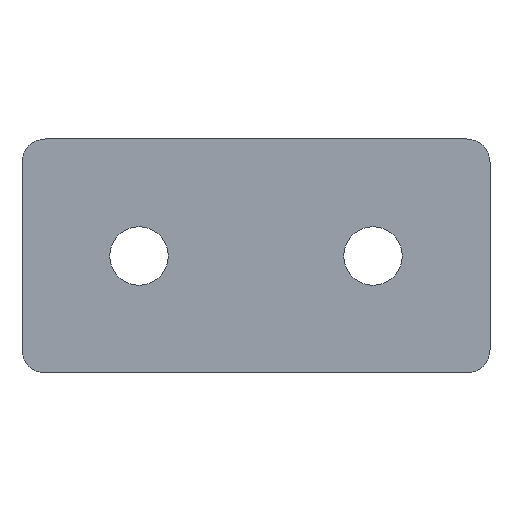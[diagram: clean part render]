
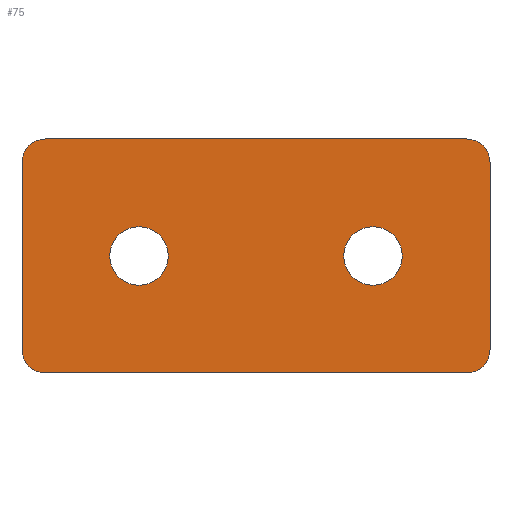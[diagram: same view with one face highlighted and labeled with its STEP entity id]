
A CAD part, front view. The second image highlights one B-rep face of the part: STEP entity #75.
In plain terms, the highlighted planar face has unit normal (0, -1, 0).
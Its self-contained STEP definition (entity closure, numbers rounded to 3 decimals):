
#75 = ADVANCED_FACE( '', ( #88, #89, #90 ), #91, .F. );
#88 = FACE_BOUND( '', #118, .T. );
#89 = FACE_BOUND( '', #119, .T. );
#90 = FACE_OUTER_BOUND( '', #120, .T. );
#91 = PLANE( '', #121 );
#118 = EDGE_LOOP( '', ( #148 ) );
#119 = EDGE_LOOP( '', ( #149 ) );
#120 = EDGE_LOOP( '', ( #150, #151, #152, #153, #154, #155, #156, #157 ) );
#121 = AXIS2_PLACEMENT_3D( '', #158, #159, #160 );
#148 = ORIENTED_EDGE( '', *, *, #240, .F. );
#149 = ORIENTED_EDGE( '', *, *, #241, .F. );
#150 = ORIENTED_EDGE( '', *, *, #242, .F. );
#151 = ORIENTED_EDGE( '', *, *, #243, .F. );
#152 = ORIENTED_EDGE( '', *, *, #244, .F. );
#153 = ORIENTED_EDGE( '', *, *, #245, .F. );
#154 = ORIENTED_EDGE( '', *, *, #246, .F. );
#155 = ORIENTED_EDGE( '', *, *, #247, .F. );
#156 = ORIENTED_EDGE( '', *, *, #248, .F. );
#157 = ORIENTED_EDGE( '', *, *, #249, .F. );
#158 = CARTESIAN_POINT( '', ( -18., 0., -8. ) );
#159 = DIRECTION( '', ( 0., 1., 0. ) );
#160 = DIRECTION( '', ( 0., 0., 1. ) );
#240 = EDGE_CURVE( '', #268, #268, #269, .T. );
#241 = EDGE_CURVE( '', #270, #270, #271, .T. );
#242 = EDGE_CURVE( '', #272, #273, #274, .T. );
#243 = EDGE_CURVE( '', #275, #272, #276, .T. );
#244 = EDGE_CURVE( '', #277, #275, #278, .T. );
#245 = EDGE_CURVE( '', #279, #277, #280, .T. );
#246 = EDGE_CURVE( '', #281, #279, #282, .T. );
#247 = EDGE_CURVE( '', #283, #281, #284, .T. );
#248 = EDGE_CURVE( '', #285, #283, #286, .T. );
#249 = EDGE_CURVE( '', #273, #285, #287, .T. );
#268 = VERTEX_POINT( '', #316 );
#269 = CIRCLE( '', #317, 2.5 );
#270 = VERTEX_POINT( '', #318 );
#271 = CIRCLE( '', #319, 2.5 );
#272 = VERTEX_POINT( '', #320 );
#273 = VERTEX_POINT( '', #321 );
#274 = CIRCLE( '', #322, 2. );
#275 = VERTEX_POINT( '', #323 );
#276 = LINE( '', #324, #325 );
#277 = VERTEX_POINT( '', #326 );
#278 = CIRCLE( '', #327, 2. );
#279 = VERTEX_POINT( '', #328 );
#280 = LINE( '', #329, #330 );
#281 = VERTEX_POINT( '', #331 );
#282 = CIRCLE( '', #332, 2. );
#283 = VERTEX_POINT( '', #333 );
#284 = LINE( '', #334, #335 );
#285 = VERTEX_POINT( '', #336 );
#286 = CIRCLE( '', #337, 2. );
#287 = LINE( '', #338, #339 );
#316 = CARTESIAN_POINT( '', ( -10., 0., -2.5 ) );
#317 = AXIS2_PLACEMENT_3D( '', #380, #381, #382 );
#318 = CARTESIAN_POINT( '', ( 10., 0., -2.5 ) );
#319 = AXIS2_PLACEMENT_3D( '', #383, #384, #385 );
#320 = CARTESIAN_POINT( '', ( -18., 0., -10. ) );
#321 = CARTESIAN_POINT( '', ( -20., 0., -8. ) );
#322 = AXIS2_PLACEMENT_3D( '', #386, #387, #388 );
#323 = CARTESIAN_POINT( '', ( 18., 0., -10. ) );
#324 = CARTESIAN_POINT( '', ( 18., 0., -10. ) );
#325 = VECTOR( '', #389, 1000. );
#326 = CARTESIAN_POINT( '', ( 20., 0., -8. ) );
#327 = AXIS2_PLACEMENT_3D( '', #390, #391, #392 );
#328 = CARTESIAN_POINT( '', ( 20., 0., 8. ) );
#329 = CARTESIAN_POINT( '', ( 20., 0., 8. ) );
#330 = VECTOR( '', #393, 1000. );
#331 = CARTESIAN_POINT( '', ( 18., 0., 10. ) );
#332 = AXIS2_PLACEMENT_3D( '', #394, #395, #396 );
#333 = CARTESIAN_POINT( '', ( -18., 0., 10. ) );
#334 = CARTESIAN_POINT( '', ( -18., 0., 10. ) );
#335 = VECTOR( '', #397, 1000. );
#336 = CARTESIAN_POINT( '', ( -20., 0., 8. ) );
#337 = AXIS2_PLACEMENT_3D( '', #398, #399, #400 );
#338 = CARTESIAN_POINT( '', ( -20., 0., -8. ) );
#339 = VECTOR( '', #401, 1000. );
#380 = CARTESIAN_POINT( '', ( -10., 0., 0. ) );
#381 = DIRECTION( '', ( 0., -1., 0. ) );
#382 = DIRECTION( '', ( 0., 0., -1. ) );
#383 = CARTESIAN_POINT( '', ( 10., 0., 0. ) );
#384 = DIRECTION( '', ( 0., -1., 0. ) );
#385 = DIRECTION( '', ( 0., 0., -1. ) );
#386 = CARTESIAN_POINT( '', ( -18., 0., -8. ) );
#387 = DIRECTION( '', ( 0., 1., 0. ) );
#388 = DIRECTION( '', ( 1., 0., 0. ) );
#389 = DIRECTION( '', ( -1., 0., 0. ) );
#390 = CARTESIAN_POINT( '', ( 18., 0., -8. ) );
#391 = DIRECTION( '', ( 0., 1., 0. ) );
#392 = DIRECTION( '', ( 1., 0., 0. ) );
#393 = DIRECTION( '', ( 0., 0., -1. ) );
#394 = CARTESIAN_POINT( '', ( 18., 0., 8. ) );
#395 = DIRECTION( '', ( 0., 1., 0. ) );
#396 = DIRECTION( '', ( 1., 0., 0. ) );
#397 = DIRECTION( '', ( 1., 0., 0. ) );
#398 = CARTESIAN_POINT( '', ( -18., 0., 8. ) );
#399 = DIRECTION( '', ( 0., 1., 0. ) );
#400 = DIRECTION( '', ( 1., 0., 0. ) );
#401 = DIRECTION( '', ( 0., 0., 1. ) );
